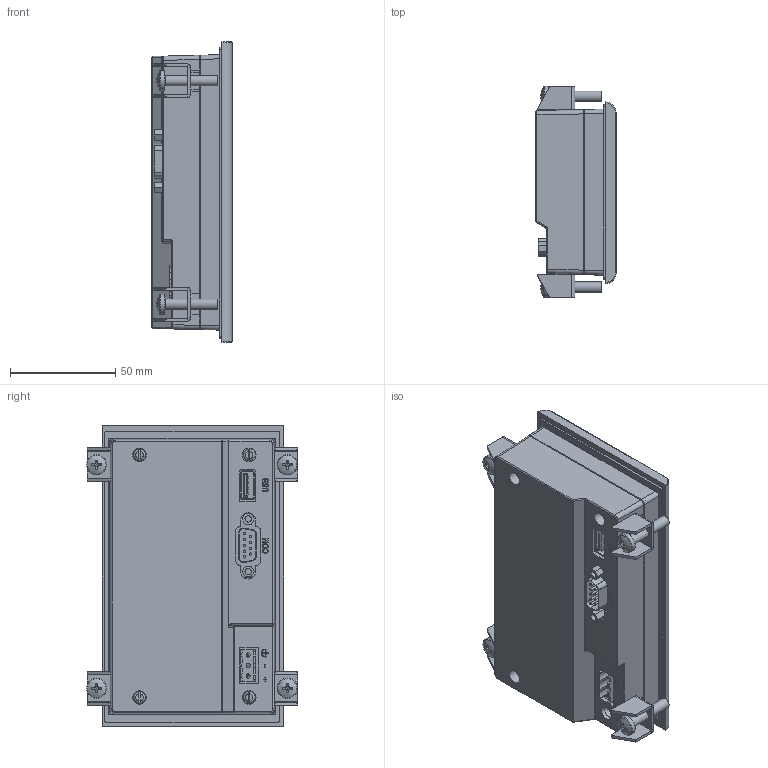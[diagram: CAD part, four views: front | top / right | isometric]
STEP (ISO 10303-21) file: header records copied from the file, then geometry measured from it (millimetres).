
FILE_DESCRIPTION (( 'STEP AP214' ), '1' );
FILE_NAME ('3D ìîäåëü ÑÏÊ105.STEP', '2017-11-06T08:40:59', ( '' ), ( '' ), 'SwSTEP 2.0', 'SolidWorks 2014', '' );
FILE_SCHEMA (( 'AUTOMOTIVE_DESIGN' ));
Length unit declared in the file: millimetre
Products named in the file (11): ISO 1580 - M3 x 10 --- 10N_ISO 1580 - M3 x 10 --- 10N; 3D ìîäåëü ÑÏÊ105; Êîðïóñ ÑÏÊ105 ïåðåä; USB A; Êëåììíèê 3çåë; 幄樏歑 9pin; ISO 7045 - M5 x 25 - Z --- 25N_ISO 7045 - M5 x 25 - Z --- 25N; Çàæèì ìåòàë; SPK105_005F03M; Óïëîòíèòåëü ÑÏÊ; Êîðïóñ ÑÏÊ105 çàä
Assembly tree (19 placements, depth 2):
  3D ìîäåëü ÑÏÊ105
    Êîðïóñ ÑÏÊ105 ïåðåä
    Êîðïóñ ÑÏÊ105 çàä
    SPK105_005F03M
    Óïëîòíèòåëü ÑÏÊ
    Çàæèì ìåòàë  x4
    ISO 7045 - M5 x 25 - Z --- 25N_ISO 7045 - M5 x 25 - Z --- 25N  x4
    ISO 1580 - M3 x 10 --- 10N_ISO 1580 - M3 x 10 --- 10N  x4
    USB A
    幄樏歑 9pin
    Êëåììíèê 3çåë
Bounding box: 38 x 100.05 x 142.35 mm (x, y, z)
Volume: 112775.1 mm3; surface area: 113938 mm2
Topology: 33 solids, 33 shells, 1833 faces, 4803 edges, 3125 vertices
Faces by surface type: plane 1519, cylinder 173, bspline 94, cone 24, torus 16, sphere 7
Full cylindrical faces by diameter (mm): 1.1 x9, 1.5 x6, 2 x3, 3 x6, 4 x4, 5 x8, 6.155 x1, 6.5 x4, 8.155 x1, 8.5 x3, 9.5 x4
Entity records: 60418 total; most frequent: CARTESIAN_POINT 10134, ORIENTED_EDGE 8460, DIRECTION 7343, EDGE_CURVE 4230, VECTOR 3737, LINE 3737, VERTEX_POINT 2802, AXIS2_PLACEMENT_3D 1803
